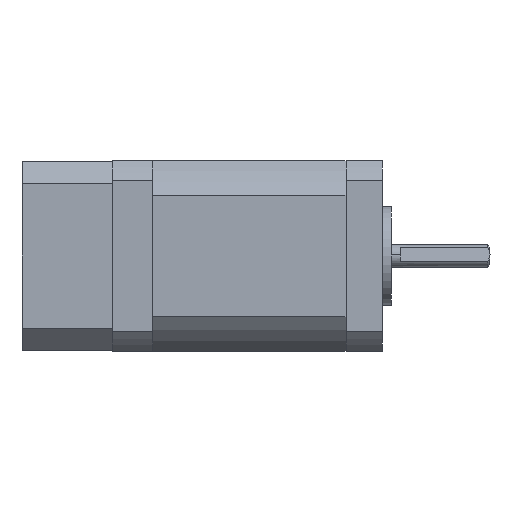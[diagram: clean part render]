
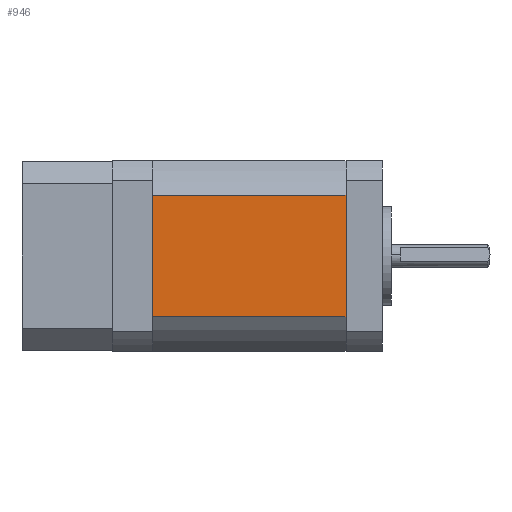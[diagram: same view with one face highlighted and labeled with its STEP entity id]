
A CAD part, left-side view. The second image highlights one B-rep face of the part: STEP entity #946.
In plain terms, the highlighted planar face has unit normal (-1, 0, 0).
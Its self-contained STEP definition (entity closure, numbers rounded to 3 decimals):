
#946 = ADVANCED_FACE ( 'NONE', ( #2855 ), #2762, .F. ) ;
#2004 = CARTESIAN_POINT ( 'NONE',  ( -21.15, 0., 21.15 ) ) ;
#2060 = LINE ( 'NONE', #2004, #9042 ) ;
#2152 = LINE ( 'NONE', #7380, #9136 ) ;
#2215 = CARTESIAN_POINT ( 'NONE',  ( -21.15, 43., -13.516 ) ) ;
#2507 = CARTESIAN_POINT ( 'NONE',  ( -21.15, 43., -13.516 ) ) ;
#2762 = PLANE ( 'NONE',  #8095 ) ;
#2855 = FACE_OUTER_BOUND ( 'NONE', #12610, .T. ) ;
#3327 = ORIENTED_EDGE ( 'NONE', *, *, #10561, .F. ) ;
#3735 = CARTESIAN_POINT ( 'NONE',  ( -21.15, 43., 13.516 ) ) ;
#3946 = CARTESIAN_POINT ( 'NONE',  ( -21.15, 43., 21.15 ) ) ;
#5283 = DIRECTION ( 'NONE',  ( 1., 0., 0. ) ) ;
#5474 = DIRECTION ( 'NONE',  ( 0., 0., -1. ) ) ;
#6054 = DIRECTION ( 'NONE',  ( 0., -1., 0. ) ) ;
#7164 = ORIENTED_EDGE ( 'NONE', *, *, #15789, .F. ) ;
#7380 = CARTESIAN_POINT ( 'NONE',  ( -21.15, 0., 13.516 ) ) ;
#7612 = DIRECTION ( 'NONE',  ( 0., 0., -1. ) ) ;
#8024 = DIRECTION ( 'NONE',  ( 0., 0., 1. ) ) ;
#8095 = AXIS2_PLACEMENT_3D ( 'NONE', #3946, #5283, #5474 ) ;
#8123 = DIRECTION ( 'NONE',  ( 0., 1., 0. ) ) ;
#9017 = EDGE_CURVE ( 'NONE', #12811, #11318, #2060, .T. ) ;
#9042 = VECTOR ( 'NONE', #7612, 1000. ) ;
#9136 = VECTOR ( 'NONE', #6054, 1000. ) ;
#9423 = EDGE_CURVE ( 'NONE', #11318, #16616, #16952, .T. ) ;
#10122 = ORIENTED_EDGE ( 'NONE', *, *, #9017, .F. ) ;
#10561 = EDGE_CURVE ( 'NONE', #16616, #14401, #14719, .T. ) ;
#11318 = VERTEX_POINT ( 'NONE', #15702 ) ;
#12610 = EDGE_LOOP ( 'NONE', ( #10122, #7164, #3327, #16461 ) ) ;
#12811 = VERTEX_POINT ( 'NONE', #15166 ) ;
#13216 = VECTOR ( 'NONE', #8123, 1000. ) ;
#13863 = VECTOR ( 'NONE', #8024, 1000. ) ;
#14401 = VERTEX_POINT ( 'NONE', #3735 ) ;
#14719 = LINE ( 'NONE', #15037, #13863 ) ;
#15037 = CARTESIAN_POINT ( 'NONE',  ( -21.15, 43., 0. ) ) ;
#15166 = CARTESIAN_POINT ( 'NONE',  ( -21.15, 0., 13.516 ) ) ;
#15702 = CARTESIAN_POINT ( 'NONE',  ( -21.15, 0., -13.516 ) ) ;
#15789 = EDGE_CURVE ( 'NONE', #14401, #12811, #2152, .T. ) ;
#16461 = ORIENTED_EDGE ( 'NONE', *, *, #9423, .F. ) ;
#16616 = VERTEX_POINT ( 'NONE', #2215 ) ;
#16952 = LINE ( 'NONE', #2507, #13216 ) ;
